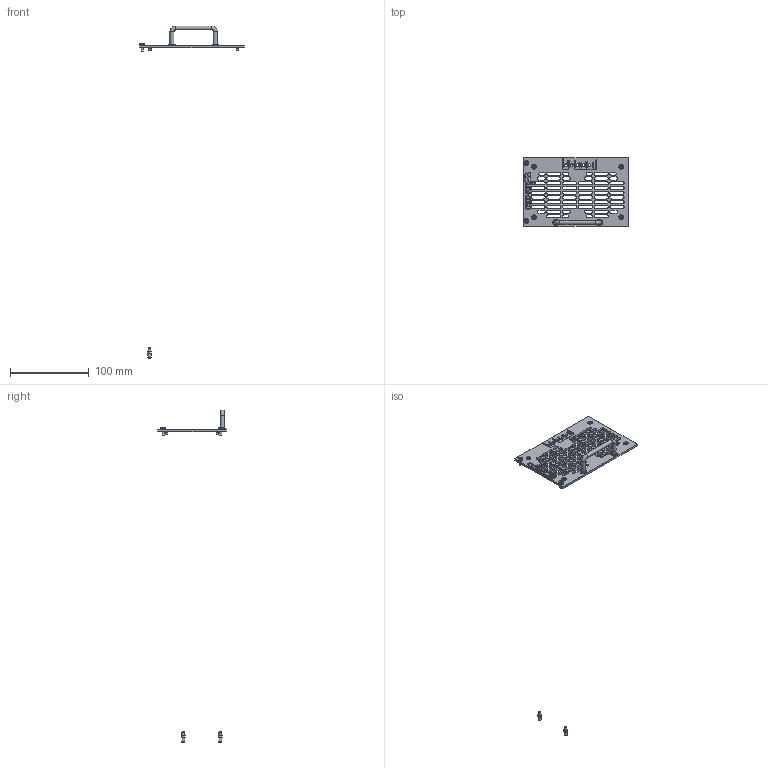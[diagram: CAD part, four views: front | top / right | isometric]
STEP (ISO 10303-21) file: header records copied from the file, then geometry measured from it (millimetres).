
FILE_DESCRIPTION(/* description */ ('19" Front Plate 3U','CAx-IF Rec.Pracs.---Representation and Presentation of Product Manufacturing Information (PMI)---4.0---2014-10-13'),/* implementation_level */ '2;1');
FILE_NAME(/* name */ 'E:\CAMTEC_2020_Pack and Go\Subrack_3U\2201007001CA.stp',/* time_stamp */ '2020-09-21T18:40:33+02:00',/* author */ ('rryba'),/* organization */ (''),/* preprocessor_version */ 'ST-DEVELOPER v18.1',/* originating_system */ 'Autodesk Inventor 2021',/* authorisation */ '');
FILE_SCHEMA (('AP242_MANAGED_MODEL_BASED_3D_ENGINEERING_MIM_LF { 1 0 10303 442 1 1 4 }'));
Length unit declared in the file: millimetre
Products named in the file (15): 2201007001CA; 2021057002CA; 2081100001CA; 2081100001; CAMTEC Logo 3D; Aufkleber_CAMTEC Logobild; Aufkleber_CAMTEC Wortbild1; Aufkleber_CAMTEC Wortbild2; 2051036002; 2530318_1; 2530318; 2530279; 2530278; 2530245; 2530320
Assembly tree (22 placements, depth 4):
  2201007001CA
    2021057002CA
    2081100001CA
      2081100001
      CAMTEC Logo 3D
        Aufkleber_CAMTEC Logobild
        Aufkleber_CAMTEC Wortbild1
        Aufkleber_CAMTEC Wortbild2
    2051036002  x2
    2530318_1  x2
    2530318
    2530279  x2
    2530278  x4
    2530245  x2
    2530320  x2
Bounding box: 132.2 x 87 x 420.6 mm (x, y, z)
Volume: 23173.7 mm3; surface area: 42241.8 mm2
Topology: 81 solids, 81 shells, 1722 faces, 5470 edges, 4760 vertices
Faces by surface type: plane 1026, cylinder 323, bspline 217, cone 120, torus 34, sphere 2
Full cylindrical faces by diameter (mm): 2.459 x2, 2.693 x6, 2.75 x2, 3 x12, 3.2 x2, 3.4 x6, 3.5 x10, 3.8 x4, 4 x2, 5 x5, 5.3 x2, 5.5 x6, 5.9 x12, 6 x2, 8 x2
Entity records: 55586 total; most frequent: CARTESIAN_POINT 13345, ORIENTED_EDGE 8270, DIRECTION 7665, EDGE_CURVE 4135, LINE 2929, VECTOR 2929, VERTEX_POINT 2750, AXIS2_PLACEMENT_3D 2368
